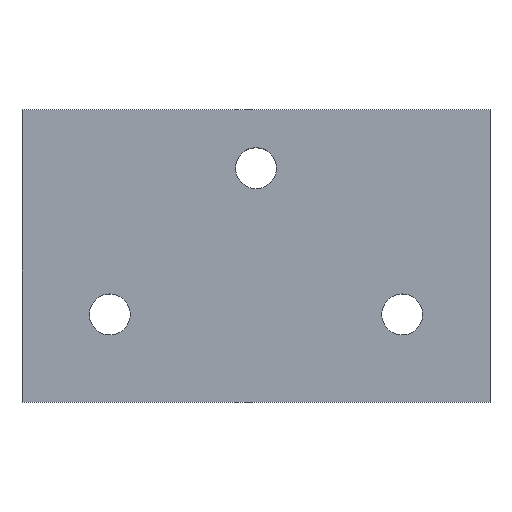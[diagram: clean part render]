
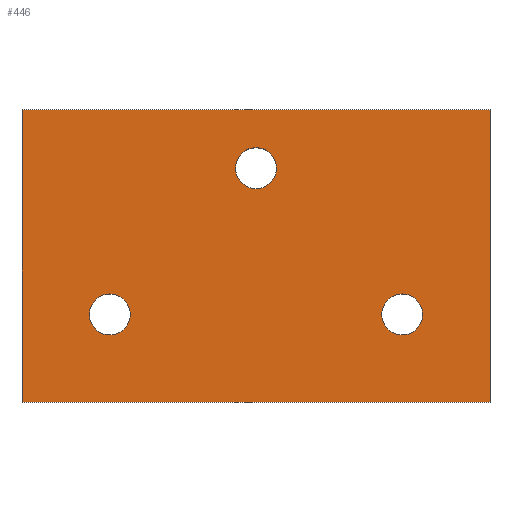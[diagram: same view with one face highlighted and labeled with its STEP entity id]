
A CAD part, top view. The second image highlights one B-rep face of the part: STEP entity #446.
In plain terms, the highlighted planar face has unit normal (0, 0, 1).
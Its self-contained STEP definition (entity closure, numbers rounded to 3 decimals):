
#208=CIRCLE('',#429,7.);
#209=CIRCLE('',#430,7.);
#210=CIRCLE('',#431,7.);
#226=ORIENTED_EDGE('',*,*,#287,.F.);
#227=ORIENTED_EDGE('',*,*,#298,.T.);
#228=ORIENTED_EDGE('',*,*,#295,.T.);
#229=ORIENTED_EDGE('',*,*,#299,.T.);
#230=ORIENTED_EDGE('',*,*,#300,.F.);
#231=ORIENTED_EDGE('',*,*,#301,.F.);
#232=ORIENTED_EDGE('',*,*,#302,.F.);
#249=VECTOR('',#343,1.);
#254=VECTOR('',#358,1.);
#257=VECTOR('',#363,1.);
#258=VECTOR('',#364,1.);
#261=LINE('',#388,#249);
#266=LINE('',#405,#254);
#269=LINE('',#409,#257);
#270=LINE('',#410,#258);
#273=VERTEX_POINT('',#385);
#274=VERTEX_POINT('',#387);
#280=VERTEX_POINT('',#403);
#281=VERTEX_POINT('',#404);
#282=VERTEX_POINT('',#411);
#283=VERTEX_POINT('',#413);
#284=VERTEX_POINT('',#415);
#287=EDGE_CURVE('',#273,#274,#261,.T.);
#295=EDGE_CURVE('',#280,#281,#266,.T.);
#298=EDGE_CURVE('',#273,#280,#269,.T.);
#299=EDGE_CURVE('',#281,#274,#270,.T.);
#300=EDGE_CURVE('',#282,#282,#208,.T.);
#301=EDGE_CURVE('',#283,#283,#209,.T.);
#302=EDGE_CURVE('',#284,#284,#210,.T.);
#309=EDGE_LOOP('',(#226,#227,#228,#229));
#310=EDGE_LOOP('',(#230));
#311=EDGE_LOOP('',(#231));
#312=EDGE_LOOP('',(#232));
#327=FACE_BOUND('',#309,.T.);
#328=FACE_BOUND('',#310,.T.);
#329=FACE_BOUND('',#311,.T.);
#330=FACE_BOUND('',#312,.T.);
#343=DIRECTION('',(160.,0.,0.));
#358=DIRECTION('',(160.,0.,0.));
#361=DIRECTION('',(0.,0.,1.));
#362=DIRECTION('',(0.,-1.,0.));
#363=DIRECTION('',(0.,-100.,0.));
#364=DIRECTION('',(0.,100.,0.));
#365=DIRECTION('',(0.,0.,1.));
#366=DIRECTION('',(0.,-7.,0.));
#367=DIRECTION('',(0.,0.,1.));
#368=DIRECTION('',(0.,-7.,0.));
#369=DIRECTION('',(0.,0.,1.));
#370=DIRECTION('',(0.,-7.,0.));
#385=CARTESIAN_POINT('',(-160.,50.,5.));
#387=CARTESIAN_POINT('',(0.,50.,5.));
#388=CARTESIAN_POINT('',(-160.,50.,5.));
#403=CARTESIAN_POINT('',(-160.,-50.,5.));
#404=CARTESIAN_POINT('',(0.,-50.,5.));
#405=CARTESIAN_POINT('',(-160.,-50.,5.));
#408=CARTESIAN_POINT('',(0.,50.,5.));
#409=CARTESIAN_POINT('',(-160.,50.,5.));
#410=CARTESIAN_POINT('',(0.,-50.,5.));
#411=CARTESIAN_POINT('',(-30.,-27.,5.));
#412=CARTESIAN_POINT('',(-30.,-20.,5.));
#413=CARTESIAN_POINT('',(-130.,-27.,5.));
#414=CARTESIAN_POINT('',(-130.,-20.,5.));
#415=CARTESIAN_POINT('',(-80.,23.,5.));
#416=CARTESIAN_POINT('',(-80.,30.,5.));
#428=AXIS2_PLACEMENT_3D('',#408,#361,#362);
#429=AXIS2_PLACEMENT_3D('',#412,#365,#366);
#430=AXIS2_PLACEMENT_3D('',#414,#367,#368);
#431=AXIS2_PLACEMENT_3D('',#416,#369,#370);
#440=PLANE('',#428);
#446=ADVANCED_FACE('',(#327,#328,#329,#330),#440,.T.);
